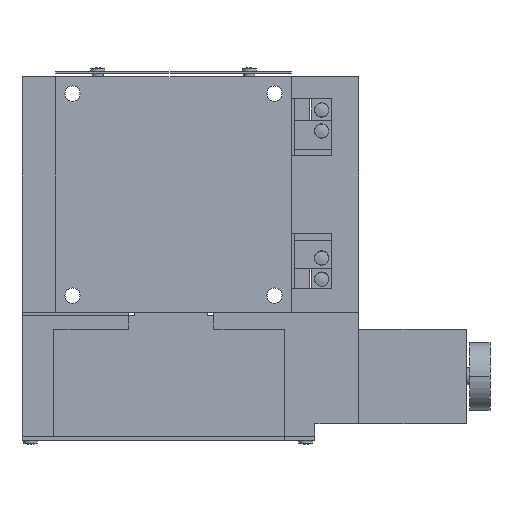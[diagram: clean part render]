
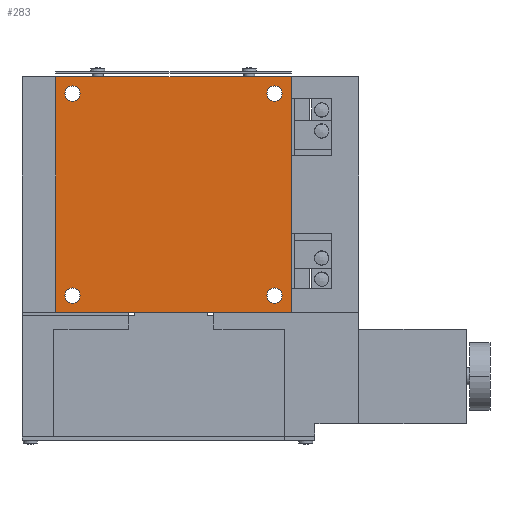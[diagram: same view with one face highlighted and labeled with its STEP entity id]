
A CAD part, front view. The second image highlights one B-rep face of the part: STEP entity #283.
In plain terms, the highlighted planar face has unit normal (0, -1, 0).
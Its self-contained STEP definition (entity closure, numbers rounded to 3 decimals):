
#138 = CIRCLE ( 'NONE', #2545, 2.25 ) ;
#211 = VERTEX_POINT ( 'NONE', #2441 ) ;
#238 = DIRECTION ( 'NONE',  ( -1., 0., 0. ) ) ;
#276 = VERTEX_POINT ( 'NONE', #5087 ) ;
#283 = ADVANCED_FACE ( 'NONE', ( #4426, #8421, #1631, #5587, #966 ), #4369, .F. ) ;
#385 = CARTESIAN_POINT ( 'NONE',  ( 30., -13.75, 32.25 ) ) ;
#437 = DIRECTION ( 'NONE',  ( 0., -1., 0. ) ) ;
#541 = DIRECTION ( 'NONE',  ( 0., 0., 1. ) ) ;
#558 = CARTESIAN_POINT ( 'NONE',  ( -30., -13.75, 30. ) ) ;
#596 = CARTESIAN_POINT ( 'NONE',  ( 30., -13.75, -30. ) ) ;
#634 = DIRECTION ( 'NONE',  ( 0., -1., 0. ) ) ;
#763 = LINE ( 'NONE', #8263, #3320 ) ;
#765 = EDGE_CURVE ( 'NONE', #6240, #211, #2848, .T. ) ;
#768 = LINE ( 'NONE', #4916, #1707 ) ;
#771 = DIRECTION ( 'NONE',  ( 0., 0., 1. ) ) ;
#775 = ORIENTED_EDGE ( 'NONE', *, *, #6532, .F. ) ;
#819 = EDGE_CURVE ( 'NONE', #6755, #2560, #5547, .T. ) ;
#966 = FACE_BOUND ( 'NONE', #1655, .T. ) ;
#1026 = DIRECTION ( 'NONE',  ( 0., 0., 1. ) ) ;
#1040 = VERTEX_POINT ( 'NONE', #8102 ) ;
#1095 = DIRECTION ( 'NONE',  ( 0., 0., 1. ) ) ;
#1234 = CIRCLE ( 'NONE', #2228, 2.25 ) ;
#1264 = DIRECTION ( 'NONE',  ( 0., 0., 1. ) ) ;
#1485 = CARTESIAN_POINT ( 'NONE',  ( 35., -13.75, -35. ) ) ;
#1516 = EDGE_CURVE ( 'NONE', #3996, #3612, #763, .T. ) ;
#1631 = FACE_BOUND ( 'NONE', #8206, .T. ) ;
#1655 = EDGE_LOOP ( 'NONE', ( #1860, #4843 ) ) ;
#1707 = VECTOR ( 'NONE', #238, 1000. ) ;
#1708 = CIRCLE ( 'NONE', #2830, 2.25 ) ;
#1835 = DIRECTION ( 'NONE',  ( 0., 0., 1. ) ) ;
#1851 = EDGE_CURVE ( 'NONE', #5141, #5572, #2110, .T. ) ;
#1860 = ORIENTED_EDGE ( 'NONE', *, *, #819, .F. ) ;
#1874 = CARTESIAN_POINT ( 'NONE',  ( 0., -13.75, 35. ) ) ;
#1916 = CARTESIAN_POINT ( 'NONE',  ( 30., -13.75, -30. ) ) ;
#1978 = AXIS2_PLACEMENT_3D ( 'NONE', #1916, #6620, #541 ) ;
#2036 = EDGE_CURVE ( 'NONE', #2560, #6755, #1708, .T. ) ;
#2110 = CIRCLE ( 'NONE', #1978, 2.25 ) ;
#2225 = CARTESIAN_POINT ( 'NONE',  ( -35., -13.75, 0. ) ) ;
#2228 = AXIS2_PLACEMENT_3D ( 'NONE', #2425, #437, #1095 ) ;
#2325 = CARTESIAN_POINT ( 'NONE',  ( 35., -13.75, 35. ) ) ;
#2373 = AXIS2_PLACEMENT_3D ( 'NONE', #4561, #3685, #1026 ) ;
#2425 = CARTESIAN_POINT ( 'NONE',  ( 30., -13.75, 30. ) ) ;
#2441 = CARTESIAN_POINT ( 'NONE',  ( -35., -13.75, 35. ) ) ;
#2450 = ORIENTED_EDGE ( 'NONE', *, *, #765, .F. ) ;
#2545 = AXIS2_PLACEMENT_3D ( 'NONE', #558, #5310, #5357 ) ;
#2560 = VERTEX_POINT ( 'NONE', #6152 ) ;
#2776 = EDGE_LOOP ( 'NONE', ( #3411, #2450, #3787, #7357 ) ) ;
#2781 = VECTOR ( 'NONE', #5123, 1000. ) ;
#2784 = EDGE_CURVE ( 'NONE', #1040, #8409, #6298, .T. ) ;
#2809 = CIRCLE ( 'NONE', #8311, 2.25 ) ;
#2830 = AXIS2_PLACEMENT_3D ( 'NONE', #3546, #7505, #4197 ) ;
#2848 = LINE ( 'NONE', #2225, #5736 ) ;
#2933 = DIRECTION ( 'NONE',  ( 0., 0., 1. ) ) ;
#3320 = VECTOR ( 'NONE', #3639, 1000. ) ;
#3411 = ORIENTED_EDGE ( 'NONE', *, *, #4835, .F. ) ;
#3504 = AXIS2_PLACEMENT_3D ( 'NONE', #3624, #8245, #8294 ) ;
#3546 = CARTESIAN_POINT ( 'NONE',  ( -30., -13.75, -30. ) ) ;
#3573 = ORIENTED_EDGE ( 'NONE', *, *, #4458, .F. ) ;
#3597 = AXIS2_PLACEMENT_3D ( 'NONE', #7158, #6592, #1264 ) ;
#3612 = VERTEX_POINT ( 'NONE', #1485 ) ;
#3624 = CARTESIAN_POINT ( 'NONE',  ( 0., -13.75, 0. ) ) ;
#3639 = DIRECTION ( 'NONE',  ( 0., 0., -1. ) ) ;
#3685 = DIRECTION ( 'NONE',  ( 0., -1., 0. ) ) ;
#3753 = VERTEX_POINT ( 'NONE', #5323 ) ;
#3787 = ORIENTED_EDGE ( 'NONE', *, *, #7883, .F. ) ;
#3857 = LINE ( 'NONE', #1874, #2781 ) ;
#3996 = VERTEX_POINT ( 'NONE', #2325 ) ;
#4133 = CARTESIAN_POINT ( 'NONE',  ( -30., -13.75, 30. ) ) ;
#4197 = DIRECTION ( 'NONE',  ( 0., 0., 1. ) ) ;
#4267 = CARTESIAN_POINT ( 'NONE',  ( 30., -13.75, -32.25 ) ) ;
#4277 = ORIENTED_EDGE ( 'NONE', *, *, #1851, .F. ) ;
#4311 = CARTESIAN_POINT ( 'NONE',  ( -35., -13.75, -35. ) ) ;
#4369 = PLANE ( 'NONE',  #3504 ) ;
#4388 = EDGE_CURVE ( 'NONE', #3753, #276, #5042, .T. ) ;
#4426 = FACE_OUTER_BOUND ( 'NONE', #2776, .T. ) ;
#4458 = EDGE_CURVE ( 'NONE', #8409, #1040, #1234, .T. ) ;
#4514 = EDGE_LOOP ( 'NONE', ( #4277, #775 ) ) ;
#4561 = CARTESIAN_POINT ( 'NONE',  ( 30., -13.75, 30. ) ) ;
#4714 = CARTESIAN_POINT ( 'NONE',  ( 30., -13.75, -27.75 ) ) ;
#4835 = EDGE_CURVE ( 'NONE', #211, #3996, #3857, .T. ) ;
#4843 = ORIENTED_EDGE ( 'NONE', *, *, #2036, .F. ) ;
#4916 = CARTESIAN_POINT ( 'NONE',  ( 0., -13.75, -35. ) ) ;
#5042 = CIRCLE ( 'NONE', #5318, 2.25 ) ;
#5087 = CARTESIAN_POINT ( 'NONE',  ( -30., -13.75, 32.25 ) ) ;
#5123 = DIRECTION ( 'NONE',  ( 1., 0., 0. ) ) ;
#5141 = VERTEX_POINT ( 'NONE', #4714 ) ;
#5310 = DIRECTION ( 'NONE',  ( 0., -1., 0. ) ) ;
#5318 = AXIS2_PLACEMENT_3D ( 'NONE', #4133, #6810, #771 ) ;
#5323 = CARTESIAN_POINT ( 'NONE',  ( -30., -13.75, 27.75 ) ) ;
#5357 = DIRECTION ( 'NONE',  ( 0., 0., 1. ) ) ;
#5547 = CIRCLE ( 'NONE', #3597, 2.25 ) ;
#5572 = VERTEX_POINT ( 'NONE', #4267 ) ;
#5587 = FACE_BOUND ( 'NONE', #6081, .T. ) ;
#5736 = VECTOR ( 'NONE', #2933, 1000. ) ;
#6081 = EDGE_LOOP ( 'NONE', ( #3573, #6295 ) ) ;
#6152 = CARTESIAN_POINT ( 'NONE',  ( -30., -13.75, -32.25 ) ) ;
#6240 = VERTEX_POINT ( 'NONE', #4311 ) ;
#6295 = ORIENTED_EDGE ( 'NONE', *, *, #2784, .F. ) ;
#6298 = CIRCLE ( 'NONE', #2373, 2.25 ) ;
#6303 = ORIENTED_EDGE ( 'NONE', *, *, #4388, .F. ) ;
#6532 = EDGE_CURVE ( 'NONE', #5572, #5141, #2809, .T. ) ;
#6592 = DIRECTION ( 'NONE',  ( 0., -1., 0. ) ) ;
#6620 = DIRECTION ( 'NONE',  ( 0., -1., 0. ) ) ;
#6755 = VERTEX_POINT ( 'NONE', #6930 ) ;
#6794 = ORIENTED_EDGE ( 'NONE', *, *, #7709, .F. ) ;
#6810 = DIRECTION ( 'NONE',  ( 0., -1., 0. ) ) ;
#6930 = CARTESIAN_POINT ( 'NONE',  ( -30., -13.75, -27.75 ) ) ;
#7158 = CARTESIAN_POINT ( 'NONE',  ( -30., -13.75, -30. ) ) ;
#7357 = ORIENTED_EDGE ( 'NONE', *, *, #1516, .F. ) ;
#7505 = DIRECTION ( 'NONE',  ( 0., -1., 0. ) ) ;
#7709 = EDGE_CURVE ( 'NONE', #276, #3753, #138, .T. ) ;
#7883 = EDGE_CURVE ( 'NONE', #3612, #6240, #768, .T. ) ;
#8102 = CARTESIAN_POINT ( 'NONE',  ( 30., -13.75, 27.75 ) ) ;
#8206 = EDGE_LOOP ( 'NONE', ( #6794, #6303 ) ) ;
#8245 = DIRECTION ( 'NONE',  ( 0., 1., 0. ) ) ;
#8263 = CARTESIAN_POINT ( 'NONE',  ( 35., -13.75, 0. ) ) ;
#8294 = DIRECTION ( 'NONE',  ( 0., 0., 1. ) ) ;
#8311 = AXIS2_PLACEMENT_3D ( 'NONE', #596, #634, #1835 ) ;
#8409 = VERTEX_POINT ( 'NONE', #385 ) ;
#8421 = FACE_BOUND ( 'NONE', #4514, .T. ) ;
